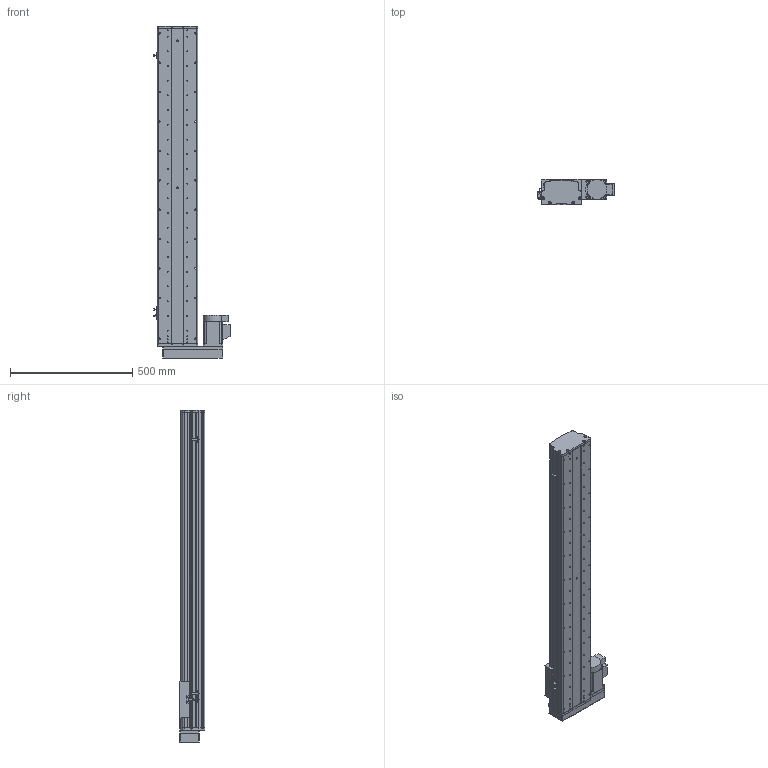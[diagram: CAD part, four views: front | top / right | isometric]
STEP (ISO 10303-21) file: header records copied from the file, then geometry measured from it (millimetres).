
FILE_DESCRIPTION (( 'STEP AP214' ), '1' );
FILE_NAME ('KSD165S-S1050-ML-CM.STEP', '2017-10-17T09:07:48', ( '微软用户' ), ( '微软中国' ), 'SwSTEP 2.0', 'SolidWorks 2014', '' );
FILE_SCHEMA (( 'AUTOMOTIVE_DESIGN' ));
Length unit declared in the file: millimetre
Products named in the file (16): 覜茼え68遵圉猾敕; U倰嫖萇EEㄜSX672; 拸秶雄ん750W侜督萇儂; KSD165模组-丝杆上下左右折前端板; HTPA26S5M250-A-H8丝杆用(内径14）; HTPA26S5M250-A-H8 750W萇儂蚚; 165宽模组马达安装板连板左右折丝杆; 165宽模组保护罩左右折; KSD165模组-防尘盖1-1050行程-最新版; KSD165模组底板-1050行程-最新; KSD165耀郪-佪裝-滅袉菜-3 -; KSD165耀郪-佪裝-滅袉菜-1; U倰嫖萇假蚾璃; KSD165耀郪-綴傷啣1; KSD165模组-丝杆滑动座-最新版; KSD165S-S1050-ML-CM
Assembly tree (19 placements, depth 2):
  KSD165S-S1050-ML-CM
    KSD165模组-丝杆滑动座-最新版
    KSD165耀郪-綴傷啣1
    U倰嫖萇假蚾璃  x3
    KSD165耀郪-佪裝-滅袉菜-1
    KSD165耀郪-佪裝-滅袉菜-3 -
    KSD165模组底板-1050行程-最新
    KSD165模组-防尘盖1-1050行程-最新版
    165宽模组保护罩左右折
    165宽模组马达安装板连板左右折丝杆
    HTPA26S5M250-A-H8 750W萇儂蚚
    HTPA26S5M250-A-H8丝杆用(内径14）
    KSD165模组-丝杆上下左右折前端板
    拸秶雄ん750W侜督萇儂
    U倰嫖萇EEㄜSX672  x3
    覜茼え68遵圉猾敕
Bounding box: 311.2 x 104 x 1355.5 mm (x, y, z)
Volume: 8097298.4 mm3; surface area: 1881099 mm2
Topology: 20 solids, 20 shells, 1867 faces, 5306 edges, 3471 vertices
Faces by surface type: cylinder 1219, plane 547, cone 101
Entity records: 61755 total; most frequent: CARTESIAN_POINT 12871, DIRECTION 9933, ORIENTED_EDGE 9300, EDGE_CURVE 4650, AXIS2_PLACEMENT_3D 3901, VERTEX_POINT 3063, CIRCLE 2232, LINE 2131
